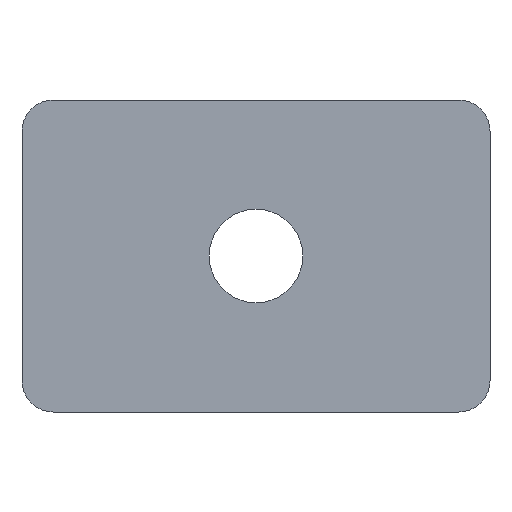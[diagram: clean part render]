
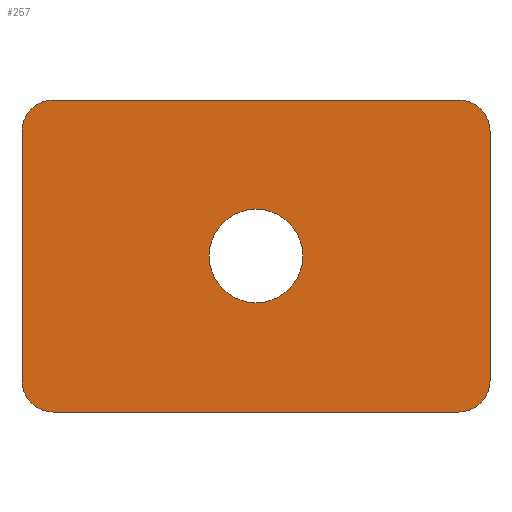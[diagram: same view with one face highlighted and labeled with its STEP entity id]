
A CAD part, front view. The second image highlights one B-rep face of the part: STEP entity #257.
In plain terms, the highlighted planar face has unit normal (0, -1, 0).
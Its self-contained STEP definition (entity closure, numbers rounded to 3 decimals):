
#20=CARTESIAN_POINT('',(6.5,0.,4.));
#21=DIRECTION('',(0.,-1.,0.));
#22=DIRECTION('',(1.,0.,0.));
#23=AXIS2_PLACEMENT_3D('',#20,#21,#22);
#25=DIRECTION('',(0.,0.,-1.));
#26=VECTOR('',#25,8.);
#27=CARTESIAN_POINT('',(7.5,0.,4.));
#28=LINE('',#27,#26);
#29=CARTESIAN_POINT('',(6.5,0.,-4.));
#30=DIRECTION('',(0.,-1.,0.));
#31=DIRECTION('',(0.,0.,-1.));
#32=AXIS2_PLACEMENT_3D('',#29,#30,#31);
#34=DIRECTION('',(-1.,0.,0.));
#35=VECTOR('',#34,13.);
#36=CARTESIAN_POINT('',(6.5,0.,-5.));
#37=LINE('',#36,#35);
#38=CARTESIAN_POINT('',(-6.5,0.,-4.));
#39=DIRECTION('',(0.,-1.,0.));
#40=DIRECTION('',(-1.,0.,0.));
#41=AXIS2_PLACEMENT_3D('',#38,#39,#40);
#43=DIRECTION('',(0.,0.,1.));
#44=VECTOR('',#43,8.);
#45=CARTESIAN_POINT('',(-7.5,0.,-4.));
#46=LINE('',#45,#44);
#47=CARTESIAN_POINT('',(-6.5,0.,4.));
#48=DIRECTION('',(0.,-1.,0.));
#49=DIRECTION('',(0.,0.,1.));
#50=AXIS2_PLACEMENT_3D('',#47,#48,#49);
#52=DIRECTION('',(1.,0.,0.));
#53=VECTOR('',#52,13.);
#54=CARTESIAN_POINT('',(-6.5,0.,5.));
#55=LINE('',#54,#53);
#56=CARTESIAN_POINT('',(0.,0.,0.));
#57=DIRECTION('',(0.,-1.,0.));
#58=DIRECTION('',(1.,0.,0.));
#59=AXIS2_PLACEMENT_3D('',#56,#57,#58);
#61=CARTESIAN_POINT('',(0.,0.,0.));
#62=DIRECTION('',(0.,-1.,0.));
#63=DIRECTION('',(-1.,0.,0.));
#64=AXIS2_PLACEMENT_3D('',#61,#62,#63);
#180=CARTESIAN_POINT('',(7.5,0.,4.));
#181=CARTESIAN_POINT('',(6.5,0.,5.));
#182=VERTEX_POINT('',#180);
#183=VERTEX_POINT('',#181);
#188=CARTESIAN_POINT('',(6.5,0.,-5.));
#189=CARTESIAN_POINT('',(7.5,0.,-4.));
#190=VERTEX_POINT('',#188);
#191=VERTEX_POINT('',#189);
#196=CARTESIAN_POINT('',(-7.5,0.,-4.));
#197=CARTESIAN_POINT('',(-6.5,0.,-5.));
#198=VERTEX_POINT('',#196);
#199=VERTEX_POINT('',#197);
#204=CARTESIAN_POINT('',(-6.5,0.,5.));
#205=CARTESIAN_POINT('',(-7.5,0.,4.));
#206=VERTEX_POINT('',#204);
#207=VERTEX_POINT('',#205);
#220=CARTESIAN_POINT('',(1.5,0.,0.));
#221=CARTESIAN_POINT('',(-1.5,0.,0.));
#222=VERTEX_POINT('',#220);
#223=VERTEX_POINT('',#221);
#228=CARTESIAN_POINT('',(0.,0.,0.));
#229=DIRECTION('',(0.,1.,0.));
#230=DIRECTION('',(1.,0.,0.));
#231=AXIS2_PLACEMENT_3D('',#228,#229,#230);
#232=PLANE('',#231);
#234=ORIENTED_EDGE('',*,*,#233,.F.);
#236=ORIENTED_EDGE('',*,*,#235,.T.);
#238=ORIENTED_EDGE('',*,*,#237,.F.);
#240=ORIENTED_EDGE('',*,*,#239,.T.);
#242=ORIENTED_EDGE('',*,*,#241,.F.);
#244=ORIENTED_EDGE('',*,*,#243,.T.);
#246=ORIENTED_EDGE('',*,*,#245,.F.);
#248=ORIENTED_EDGE('',*,*,#247,.T.);
#249=EDGE_LOOP('',(#234,#236,#238,#240,#242,#244,#246,#248));
#250=FACE_OUTER_BOUND('',#249,.F.);
#252=ORIENTED_EDGE('',*,*,#251,.T.);
#254=ORIENTED_EDGE('',*,*,#253,.T.);
#255=EDGE_LOOP('',(#252,#254));
#256=FACE_BOUND('',#255,.F.);
#257=ADVANCED_FACE('',(#250,#256),#232,.F.);
#24=CIRCLE('',#23,1.);
#33=CIRCLE('',#32,1.);
#42=CIRCLE('',#41,1.);
#51=CIRCLE('',#50,1.);
#60=CIRCLE('',#59,1.5);
#65=CIRCLE('',#64,1.5);
#233=EDGE_CURVE('',#182,#183,#24,.T.);
#235=EDGE_CURVE('',#182,#191,#28,.T.);
#237=EDGE_CURVE('',#190,#191,#33,.T.);
#239=EDGE_CURVE('',#190,#199,#37,.T.);
#241=EDGE_CURVE('',#198,#199,#42,.T.);
#243=EDGE_CURVE('',#198,#207,#46,.T.);
#245=EDGE_CURVE('',#206,#207,#51,.T.);
#247=EDGE_CURVE('',#206,#183,#55,.T.);
#251=EDGE_CURVE('',#222,#223,#60,.T.);
#253=EDGE_CURVE('',#223,#222,#65,.T.);
